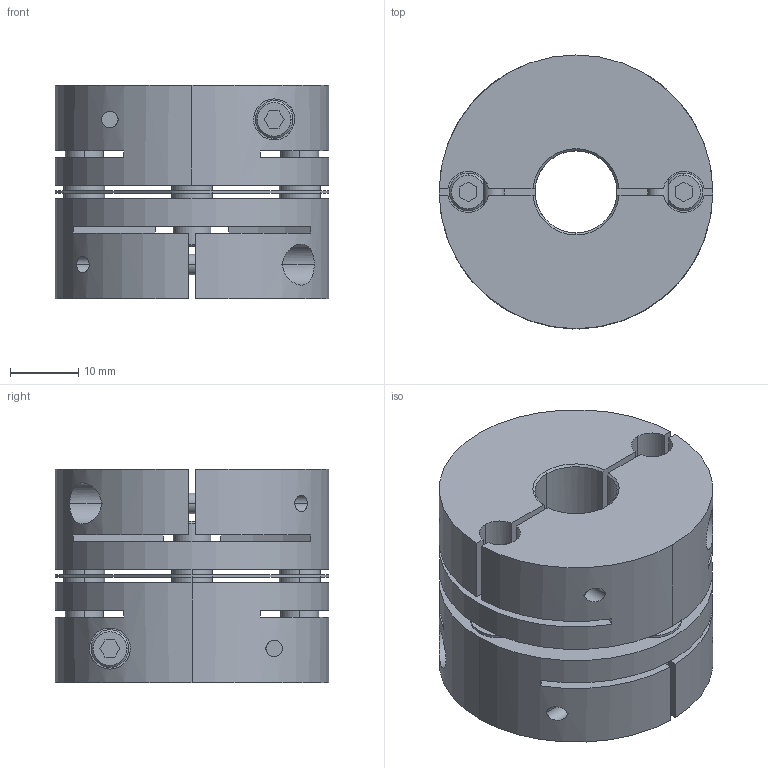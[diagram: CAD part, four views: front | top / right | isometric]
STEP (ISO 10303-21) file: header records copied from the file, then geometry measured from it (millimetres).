
FILE_DESCRIPTION((''),'2;1');
FILE_NAME('LAS-40C-12×14.stp','2011-08-11T08:51:05',(''),(''),'AutoCAD STEP 2000i','AutoCAD 2000i',', , ');
FILE_SCHEMA(('CONFIG_CONTROL_DESIGN'));
Length unit declared in the file: millimetre
Products named in the file (5): LAS-40C-10×10; 忣兜1; LA-4002-D10-1; LA-4002-D10; LAS40-ITA
Assembly tree (4 placements, depth 2):
  LAS-40C-10×10
    忣兜1
    LA-4002-D10-1
    LA-4002-D10
    LAS40-ITA
Bounding box: 40 x 40 x 31.2 mm (x, y, z)
Volume: 30137.1 mm3; surface area: 15368.1 mm2
Topology: 1 solids, 1 shells, 236 faces, 624 edges, 408 vertices
Faces by surface type: plane 112, cylinder 96, cone 28
Entity records: 8107 total; most frequent: CARTESIAN_POINT 1913, DIRECTION 1302, ORIENTED_EDGE 1248, EDGE_CURVE 624, AXIS2_PLACEMENT_3D 477, VERTEX_POINT 408, VECTOR 348, LINE 348
